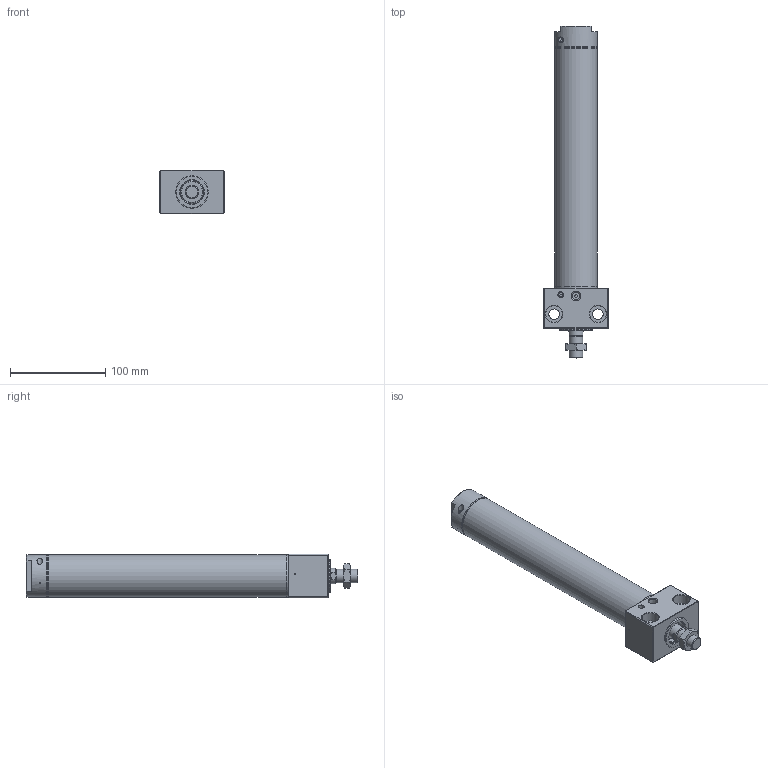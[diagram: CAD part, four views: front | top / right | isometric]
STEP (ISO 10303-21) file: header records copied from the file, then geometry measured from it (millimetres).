
FILE_DESCRIPTION((''),'2;1');
FILE_NAME('I:\3D電子目錄\氣缸\DBS\DBS\DBS40x200-C.stp','2007-10-08T08:49:41',('Administrator'),(''),'Autodesk Inventor 2008','Autodesk Inventor 2008','');
FILE_SCHEMA(('AUTOMOTIVE_DESIGN { 1 0 10303 214 1 1 1 1 }'));
Length unit declared in the file: millimetre
Products named in the file (1): DBS40x200-C
Bounding box: 68 x 348.6 x 46 mm (x, y, z)
Volume: 262485.4 mm3; surface area: 110099.5 mm2
Topology: 7 solids, 7 shells, 207 faces, 421 edges, 258 vertices
Faces by surface type: plane 92, cone 50, cylinder 46, bspline 16, torus 3
Full cylindrical faces by diameter (mm): 1.2 x1, 1.9 x2, 3 x2, 3.3 x1, 4.6 x2, 5 x2, 6 x2, 10.5 x1, 12 x1, 13 x1, 14 x2, 16 x1, 16.5 x1, 18 x1, 21 x2, 24 x3, 26 x2, 27.5 x1, 28 x2, 34 x1, 38 x2, 38.5 x2, 40 x1, 42.2 x6, 45 x4
Entity records: 5327 total; most frequent: CARTESIAN_POINT 1420, DIRECTION 818, ORIENTED_EDGE 630, AXIS2_PLACEMENT_3D 361, EDGE_LOOP 350, EDGE_CURVE 315, VERTEX_POINT 243, FACE_OUTER_BOUND 207
